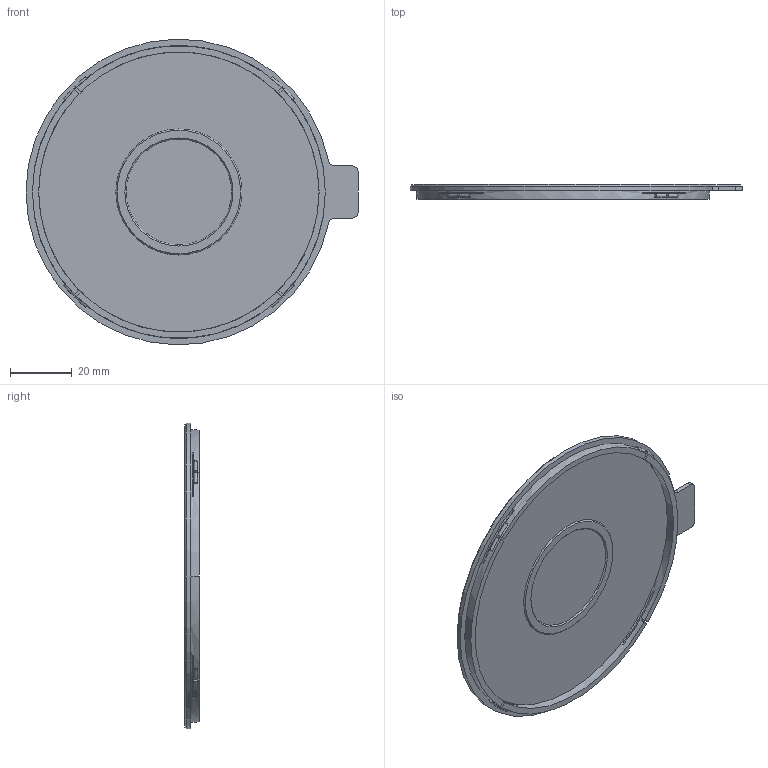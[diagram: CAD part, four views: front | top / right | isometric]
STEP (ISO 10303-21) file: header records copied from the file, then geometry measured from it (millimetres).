
FILE_DESCRIPTION((''),'2;1');
FILE_NAME('0002','2024-10-21T12:20:50',('qinghui.yi'),(''),'CREO PARAMETRIC BY PTC INC, 2019164','CREO PARAMETRIC BY PTC INC, 2019164','');
FILE_SCHEMA(('CONFIG_CONTROL_DESIGN','SHAPE_APPEARANCE_LAYERS_GROUPS'));
Length unit declared in the file: millimetre
Products named in the file (1): 0002
Bounding box: 107.5 x 4.8 x 98.99 mm (x, y, z)
Volume: 17346.9 mm3; surface area: 18204.7 mm2
Topology: 1 solids, 1 shells, 77 faces, 200 edges, 128 vertices
Faces by surface type: plane 51, cylinder 9, cone 9, torus 8
Entity records: 2843 total; most frequent: CARTESIAN_POINT 533, DIRECTION 433, ORIENTED_EDGE 400, COLOUR_RGB 312, EDGE_CURVE 200, AXIS2_PLACEMENT_3D 164, VERTEX_POINT 128, VECTOR 105
